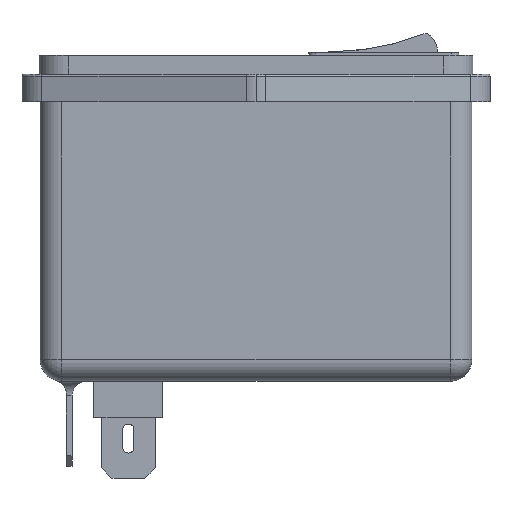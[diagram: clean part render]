
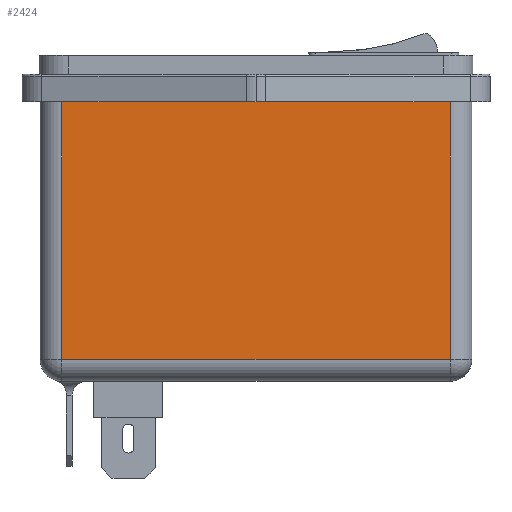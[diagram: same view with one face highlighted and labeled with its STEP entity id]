
A CAD part, left-side view. The second image highlights one B-rep face of the part: STEP entity #2424.
In plain terms, the highlighted planar face has unit normal (-1, 0, 0).
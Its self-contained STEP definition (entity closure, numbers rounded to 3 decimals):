
#1480 = VECTOR ( 'NONE', #4602, 1000. ) ;
#2424 = ADVANCED_FACE ( 'NONE', ( #13173 ), #7812, .F. ) ;
#3387 = DIRECTION ( 'NONE',  ( 0., -1., 0. ) ) ;
#3411 = EDGE_CURVE ( 'NONE', #8995, #15812, #12382, .T. ) ;
#3805 = EDGE_CURVE ( 'NONE', #9255, #15050, #15042, .T. ) ;
#4170 = CARTESIAN_POINT ( 'NONE',  ( -14.25, -26.75, 38.5 ) ) ;
#4478 = ORIENTED_EDGE ( 'NONE', *, *, #3411, .T. ) ;
#4521 = ORIENTED_EDGE ( 'NONE', *, *, #14410, .T. ) ;
#4602 = DIRECTION ( 'NONE',  ( 0., 0., -1. ) ) ;
#4674 = DIRECTION ( 'NONE',  ( 0., 0., 1. ) ) ;
#5051 = DIRECTION ( 'NONE',  ( 0., -1., 0. ) ) ;
#5190 = LINE ( 'NONE', #11845, #16093 ) ;
#5749 = CARTESIAN_POINT ( 'NONE',  ( -14.25, -26.75, 3. ) ) ;
#6467 = DIRECTION ( 'NONE',  ( 1., 0., 0. ) ) ;
#6873 = ORIENTED_EDGE ( 'NONE', *, *, #3805, .T. ) ;
#7812 = PLANE ( 'NONE',  #15058 ) ;
#8033 = CARTESIAN_POINT ( 'NONE',  ( -14.25, 26.75, 38.5 ) ) ;
#8372 = VECTOR ( 'NONE', #5051, 1000. ) ;
#8995 = VERTEX_POINT ( 'NONE', #8033 ) ;
#9255 = VERTEX_POINT ( 'NONE', #5749 ) ;
#11845 = CARTESIAN_POINT ( 'NONE',  ( -14.25, -29.75, 3. ) ) ;
#12137 = CARTESIAN_POINT ( 'NONE',  ( -14.25, -29.75, 38.5 ) ) ;
#12382 = LINE ( 'NONE', #14494, #1480 ) ;
#12886 = EDGE_LOOP ( 'NONE', ( #4521, #6873, #15390, #4478 ) ) ;
#13173 = FACE_OUTER_BOUND ( 'NONE', #12886, .T. ) ;
#13264 = CARTESIAN_POINT ( 'NONE',  ( -14.25, -26.75, 38.5 ) ) ;
#14410 = EDGE_CURVE ( 'NONE', #15812, #9255, #5190, .T. ) ;
#14494 = CARTESIAN_POINT ( 'NONE',  ( -14.25, 26.75, 38.5 ) ) ;
#14584 = VECTOR ( 'NONE', #4674, 1000. ) ;
#14789 = CARTESIAN_POINT ( 'NONE',  ( -14.25, 26.75, 3. ) ) ;
#14983 = CARTESIAN_POINT ( 'NONE',  ( -14.25, -29.75, 38.5 ) ) ;
#15042 = LINE ( 'NONE', #13264, #14584 ) ;
#15050 = VERTEX_POINT ( 'NONE', #4170 ) ;
#15058 = AXIS2_PLACEMENT_3D ( 'NONE', #14983, #6467, #16388 ) ;
#15390 = ORIENTED_EDGE ( 'NONE', *, *, #16448, .F. ) ;
#15812 = VERTEX_POINT ( 'NONE', #14789 ) ;
#16093 = VECTOR ( 'NONE', #3387, 1000. ) ;
#16371 = LINE ( 'NONE', #12137, #8372 ) ;
#16388 = DIRECTION ( 'NONE',  ( 0., 0., -1. ) ) ;
#16448 = EDGE_CURVE ( 'NONE', #8995, #15050, #16371, .T. ) ;
